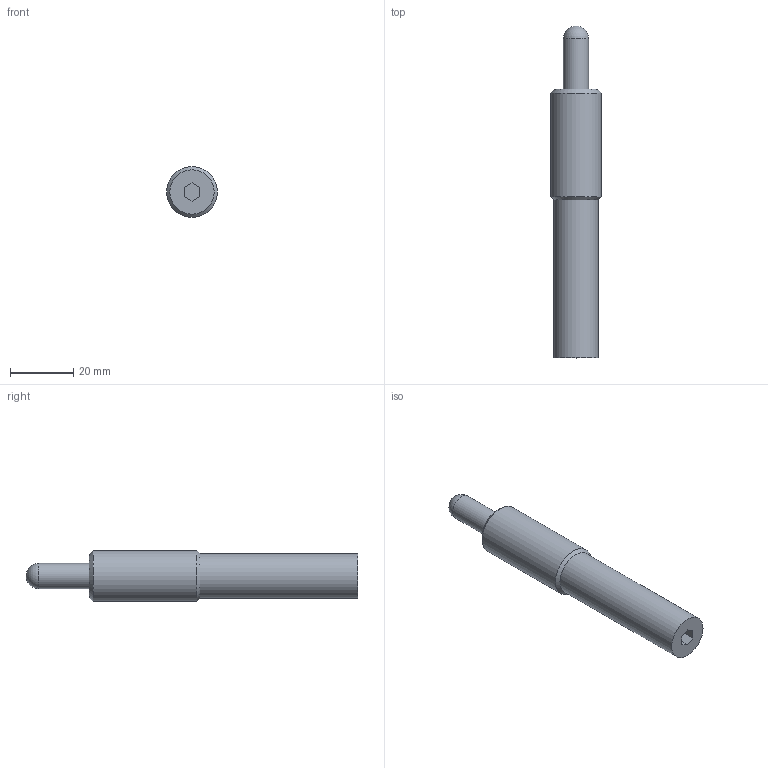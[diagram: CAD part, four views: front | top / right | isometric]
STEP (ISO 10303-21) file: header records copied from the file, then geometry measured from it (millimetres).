
FILE_DESCRIPTION( ( 'STEP AP203' ), '1' );
FILE_NAME( 'p:/temp/worker_9/temp/app_47_0201907041159445044363210e898ce_000000_00_00_000000/format_0/M314-04-010.stp', '2019-07-04T09:59:44', ( '' ), ( '' ), ' ', 'PARTsolutions', ' ' );
FILE_SCHEMA( ( 'CONFIG_CONTROL_DESIGN' ) );
Length unit declared in the file: millimetre
Products named in the file (1): _M314-04-010
Bounding box: 16 x 105 x 16 mm (x, y, z)
Volume: 15504.1 mm3; surface area: 4830.7 mm2
Topology: 1 solids, 1 shells, 15 faces, 33 edges, 21 vertices
Faces by surface type: plane 9, cylinder 3, cone 2, sphere 1
Full cylindrical faces by diameter (mm): 8 x1, 14 x1, 16 x1
Entity records: 410 total; most frequent: DIRECTION 64, CARTESIAN_POINT 61, ORIENTED_EDGE 50, EDGE_CURVE 25, AXIS2_PLACEMENT_3D 23, EDGE_LOOP 22, VERTEX_POINT 20, FACE_OUTER_BOUND 18
